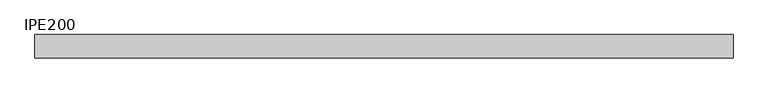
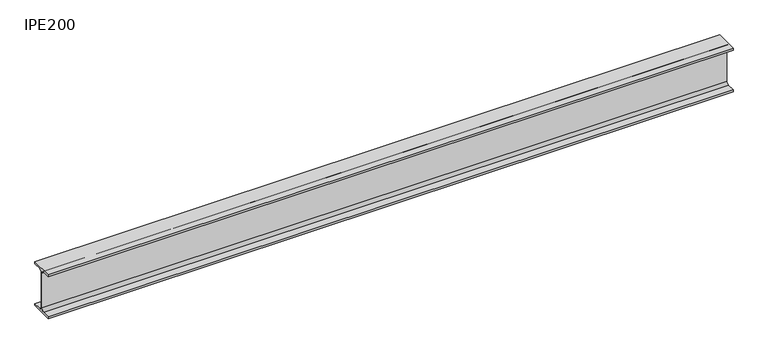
"""IFC4 building model written with IfcOpenShell, lengths in millimetres: beam geometry, IPE-Poutrelles : IPE200."""

from ifc_helpers import new_model, si_unit, point, frame, frame_2d, origin, place, context, project, spatial, polyline, circle_curve, trimmed, segment, composite_curve, outline, extrude, source, transform, mapped, element, save


def ipe200_1a53aca3(model_context):
    return source(origin(), model_context, "Body", "SweptSolid", [
        extrude(outline(composite_curve([segment(polyline([(50.0, -91.5), (50.0, -100.0), (-50.0, -100.0), (-50.0, -91.5), (-14.8, -91.5)]), True, "CONTINUOUS"), segment(trimmed(circle_curve(frame_2d((-14.8, -79.5)), 12.0), [point((-14.8, -91.5))], [point((-2.8, -79.5))], True, "CARTESIAN"), True, "CONTINUOUS"), segment(polyline([(-2.8, -79.5), (-2.8, 79.5)]), True, "CONTINUOUS"), segment(trimmed(circle_curve(frame_2d((-14.8, 79.5)), 12.0), [point((-2.8, 79.5))], [point((-14.8, 91.5))], True, "CARTESIAN"), True, "CONTINUOUS"), segment(polyline([(-14.8, 91.5), (-50.0, 91.5), (-50.0, 100.0), (50.0, 100.0), (50.0, 91.5), (14.8, 91.5)]), True, "CONTINUOUS"), segment(trimmed(circle_curve(frame_2d((14.8, 79.5)), 12.0), [point((14.8, 91.5))], [point((2.8, 79.5))], True, "CARTESIAN"), True, "CONTINUOUS"), segment(polyline([(2.8, 79.5), (2.8, -79.5)]), True, "CONTINUOUS"), segment(trimmed(circle_curve(frame_2d((14.8, -79.5)), 12.0), [point((2.8, -79.5))], [point((14.8, -91.5))], True, "CARTESIAN"), True, "CONTINUOUS"), segment(polyline([(14.8, -91.5), (50.0, -91.5)]), True, "CONTINUOUS")], self_intersect=False)), frame((-1524.7752745, 0.0, 0.0), z_axis=(1.0, 0.0, 0.0), x_axis=(0.0, 1.0, 0.0)), (0.0, 0.0, 1.0), 2965.8249332),
    ])


if __name__ == "__main__":
    model = new_model("IFC4")
    model_context = context("Model", 3, world=origin())
    ifc_project = project(units=[si_unit("LENGTHUNIT", "METRE", prefix="MILLI")], contexts=[model_context])
    site = spatial("IfcSite", under=ifc_project)
    building = spatial("IfcBuilding", under=site)
    placement = place(None, origin())
    ipe200_shape = ipe200_1a53aca3(model_context)
    element("IfcBeam", 1, ObjectType="IPE-Poutrelles : IPE200", at=placement, inside=building, context=model_context, shape_type="MappedRepresentation", body=[
        mapped(ipe200_shape, transform((0.0, 0.0, 0.0), x_axis=(1.0, 0.0, 0.0), y_axis=(0.0, 1.0, 0.0), z_axis=(0.0, 0.0, 1.0))),
    ])
    save(model, "model.ifc")
